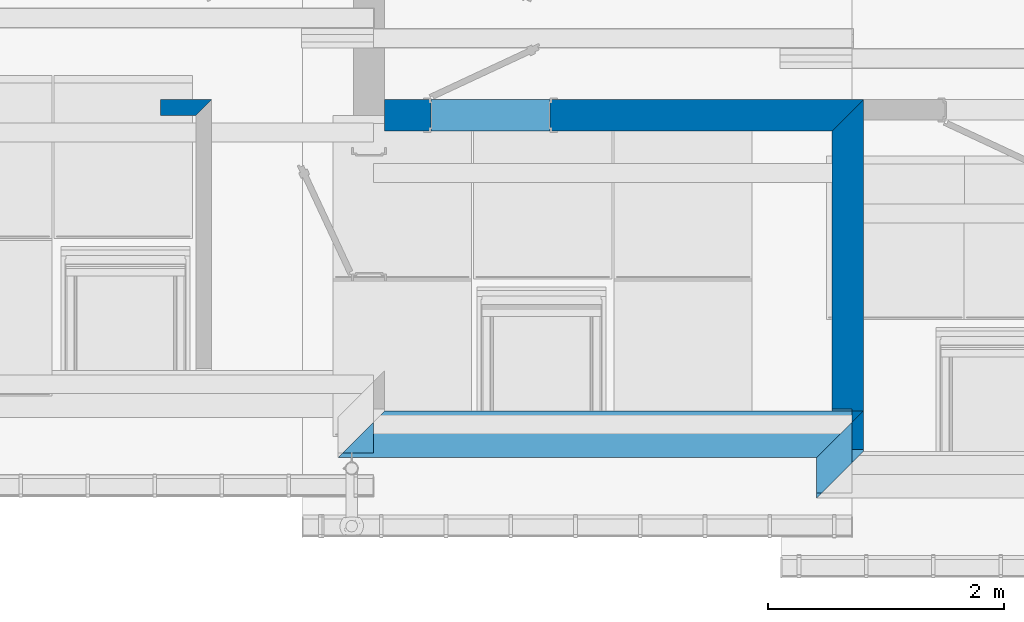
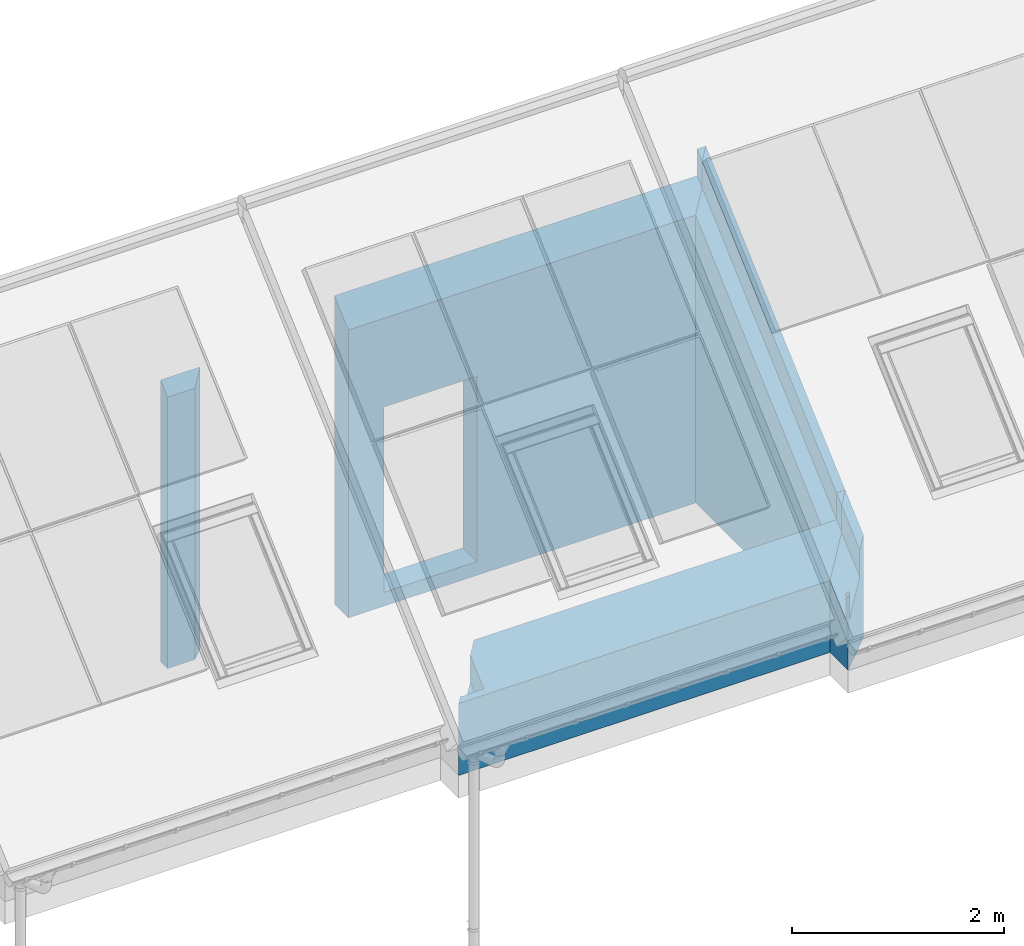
# One storey, part 9 of 43: 5 walls, 1 opening.
"""IFC2X3 building model written with IfcOpenShell, lengths in millimetres."""

from ifc_helpers import new_model, si_unit, frame, origin_with_axes, place, context, project, spatial, faceted_brep, material, layer, layer_set, layer_usage, element, save


model = new_model("IFC2X3")

# Units and contexts
model_context = context("Model", 3, world=origin_with_axes())
ifc_project = project(units=[si_unit("LENGTHUNIT", "METRE", prefix="MILLI")], contexts=[model_context])

# Site, building, storey
site_placement = place(None, origin_with_axes())
site = spatial("IfcSite", under=ifc_project, at=site_placement, Name="Site", CompositionType="ELEMENT")
building_placement = place(site_placement, origin_with_axes())
building = spatial("IfcBuilding", under=site, at=building_placement, Name="?", CompositionType="ELEMENT")
storey_placement = place(building_placement, frame((0.0, 0.0, 5938.0), z_axis=(0.0, 0.0, 1.0), x_axis=(1.0, 0.0, 0.0)))
storey = spatial("IfcBuildingStorey", under=building, at=storey_placement, Name="Dachgeschoß", CompositionType="ELEMENT", Elevation=5938.0)

# Walls
ifc_material_1 = material(Name="Material_AW")
ifc_layer_1 = layer(ifc_material_1, 395.0, ventilated=False)
ifc_layer_set_1 = layer_set([ifc_layer_1], Name="MaterialLayerSet_AW")
ifc_layer_usage_1 = layer_usage(ifc_layer_set_1, "AXIS2", "NEGATIVE", 197.5)
wall_1_placement = place(storey_placement, frame((13747.5, -7242.5, 0.0), z_axis=(0.0, 0.0, 1.0), x_axis=(0.0, 1.0, 0.0)))
element("IfcWall", 1, at=wall_1_placement, inside=storey, material=ifc_layer_usage_1, Name="AW-24", context=model_context, shape_type="Brep", body=[
    faceted_brep([(539.500007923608, -197.5, 0.0), (539.500007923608, -197.5, 1493.14802333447), (197.499999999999, -197.5, 1185.20976677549), (197.5, -197.5, 0.0), (144.500007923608, 197.5, 0.0), (144.500007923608, 197.5, 829.550079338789), (444.500007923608, -102.5, 1099.67143284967), (444.500007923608, -102.5, 1407.60968853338), (539.500007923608, -197.5, 1493.14802333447), (539.500007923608, -197.5, 0.0), (-197.5, 197.5, 0.0), (-197.500000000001, 197.5, 829.550314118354), (-155.5, 197.5, 867.367208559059), (-155.5, 197.5, 559.428800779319), (144.500007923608, 197.5, 829.550079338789), (144.500007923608, 197.5, 0.0), (197.5, -197.5, -1.26217744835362e-29), (197.499999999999, -197.5, 1185.20976677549), (102.499999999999, -102.5, 1099.67143197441), (102.499999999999, -102.5, 791.733176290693), (-155.5, 155.499999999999, 559.42881227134), (-155.5, 155.499999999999, 867.367208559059), (-197.500000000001, 197.5, 829.550314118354), (-197.5, 197.5, 3.78653234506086e-29), (197.5, -197.5, 0.0), (-197.5, 197.5, 0.0), (144.500007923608, 197.5, 0.0), (539.500007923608, -197.5, 0.0), (-155.5, 197.5, 867.367208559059), (-197.500000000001, 197.5, 829.550314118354), (-155.5, 155.499999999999, 867.367208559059), (102.499999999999, -102.5, 1099.67143197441), (197.499999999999, -197.5, 1185.20976677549), (539.500007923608, -197.5, 1493.14802333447), (444.500007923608, -102.5, 1407.60968853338), (444.500007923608, -102.5, 1099.67143284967), (144.500007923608, 197.5, 829.550079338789), (-155.5, 197.5, 559.428800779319), (-155.5, 155.499999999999, 559.428812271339), (102.499999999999, -102.5, 791.733176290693), (102.499999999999, -102.5, 791.733176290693), (102.499999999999, -102.5, 1099.67143197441), (444.500007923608, -102.5, 1407.60968853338), (444.500007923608, -102.5, 1099.67143284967), (-155.5, 197.5, 559.428800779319), (-155.5, 197.5, 867.367208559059), (-155.5, 155.499999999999, 867.367208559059), (-155.5, 155.499999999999, 559.42881227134)], [[[0, 1, 2, 3]], [[4, 5, 6, 7, 8, 9]], [[10, 11, 12, 13, 14, 15]], [[16, 17, 18, 19, 20, 21, 22, 23]], [[24, 25, 26, 27]], [[28, 29, 30]], [[31, 32, 33, 34]], [[35, 36, 37, 38, 39]], [[40, 41, 42, 43]], [[44, 45, 46, 47]]]),
])
wall_2_placement = place(storey_placement, frame((13747.5, -6900.5, 0.0), z_axis=(0.0, 0.0, 1.0), x_axis=(-1.0, 0.0, 0.0)))
element("IfcWall", 2, at=wall_2_placement, inside=storey, material=ifc_layer_usage_1, Name="AW-25", context=model_context, shape_type="Brep", body=[
    faceted_brep([(3852.50007906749, -197.5, 0.0), (3852.50007906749, -197.5, 1185.20936800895), (-102.5, -197.5, 1185.20941622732), (-102.5, -197.5, 1493.14796522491), (-197.5, -197.5, 1493.14796522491), (-197.5, -197.5, 0.0), (4247.50007906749, 197.5, 0.0), (4247.50007906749, 197.5, 829.549689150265), (4205.50007906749, 155.5, 867.366667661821), (4205.50007906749, 155.5, 559.428707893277), (3947.5, -102.50007906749, 791.732993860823), (3947.5, -102.50007906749, 1099.67103542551), (3852.50007906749, -197.5, 1185.20936800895), (3852.50007906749, -197.5, 4.03896783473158e-28), (197.5, 197.5, 0.0), (197.5, 197.5, 829.54973852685), (4247.50007906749, 197.5, 829.549689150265), (4247.50007906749, 197.5, 0.0), (-197.5, -197.5, 1.57772181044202e-30), (-197.5, -197.5, 1493.14796522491), (-102.5, -102.5, 1407.60939570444), (-102.5, -102.5, 1099.67101360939), (197.5, 197.5, 829.54973852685), (197.5, 197.5, 1.57772181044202e-30), (-197.5, -197.5, 0.0), (197.5, 197.5, 0.0), (4247.50007906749, 197.5, 0.0), (3852.50007906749, -197.5, 0.0), (-102.5, -102.5, 1407.60939570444), (-197.5, -197.5, 1493.14796522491), (-102.5, -197.5, 1493.14796522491), (4205.50007906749, 155.5, 867.366667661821), (4247.50007906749, 197.5, 829.549689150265), (197.5, 197.5, 829.54973852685), (-102.500000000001, -102.5, 1099.67101360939), (-102.500000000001, -197.5, 1185.20941622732), (3852.50007906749, -197.5, 1185.20936800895), (3947.5, -102.50007906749, 1099.67103542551), (3947.5, 155.5, 867.366670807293), (3947.5, -102.50007906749, 791.732993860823), (4205.50007906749, 155.5, 559.428707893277), (3947.5, 155.5, 559.428707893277), (-102.5, -102.5, 1099.67101360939), (-102.5, -102.5, 1407.60939570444), (-102.5, -197.5, 1493.14796522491), (-102.5, -197.5, 1185.20941622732), (3947.5, 155.5, 559.428707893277), (3947.5, 155.5, 867.366670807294), (3947.5, -102.50007906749, 1099.67103542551), (3947.5, -102.50007906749, 791.732993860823), (4205.50007906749, 155.5, 559.428707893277), (4205.50007906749, 155.5, 867.366667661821), (3947.5, 155.5, 867.366670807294), (3947.5, 155.5, 559.428707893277)], [[[0, 1, 2, 3, 4, 5]], [[6, 7, 8, 9, 10, 11, 12, 13]], [[14, 15, 16, 17]], [[18, 19, 20, 21, 22, 23]], [[24, 25, 26, 27]], [[28, 29, 30]], [[31, 32, 33, 34, 35, 36, 37, 38]], [[39, 40, 41]], [[42, 43, 44, 45]], [[46, 47, 48, 49]], [[50, 51, 52, 53]]]),
])
ifc_material_2 = material(Name="Material_IW")
ifc_layer_2 = layer(ifc_material_2, 264.0, ventilated=False)
ifc_layer_set_2 = layer_set([ifc_layer_2], Name="MaterialLayerSet_IW")
ifc_layer_usage_2 = layer_usage(ifc_layer_set_2, "AXIS2", "NEGATIVE", 132.0)
wall_3_placement = place(storey_placement, frame((13813.0, -6703.0, 0.0), z_axis=(0.0, 0.0, 1.0), x_axis=(0.0, 1.0, 0.0)))
element("IfcWall", 3, at=wall_3_placement, inside=storey, material=ifc_layer_usage_2, Name="IW-38", context=model_context, shape_type="Brep", body=[
    faceted_brep([(2634.00010334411, -132.0, 0.0), (2634.00028412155, -132.0, 3864.81283801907), (0.0, -132.0, 1493.14822056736), (0.0, -132.0, 0.0), (2369.99990306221, 132.0, -6.7762635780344e-21), (2370.00005831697, 132.0, 3319.16739306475), (2539.00019364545, -37.0000000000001, 3471.3361271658), (2539.00020804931, -36.9999999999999, 3779.27404148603), (2634.00028412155, -132.0, 3864.81283801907), (2634.00010334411, -132.0, 0.0), (0.0, 132.0, 0.0), (0.0, 132.0, 1185.20965754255), (2370.00005831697, 132.0, 3319.16739306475), (2369.99990306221, 132.0, 0.0), (0.0, -132.0, 0.0), (0.0, -132.0, 1493.14822056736), (0.0, -37.0, 1493.14788066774), (0.0, -37.0, 1185.2099793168), (0.0, 132.0, 1185.20965754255), (0.0, 132.0, 0.0), (0.0, -132.0, 0.0), (0.0, 132.0, 0.0), (2369.99990306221, 132.0, 0.0), (2634.00010334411, -132.0, 0.0), (8.44857960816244e-14, -37.0, 1493.14788066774), (1.88143825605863e-13, -132.0, 1493.14822056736), (2634.00028412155, -132.0, 3864.81283801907), (2539.00020804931, -37.0, 3779.27404148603), (2539.00019364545, -37.0, 3471.3361271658), (2370.00005831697, 132.0, 3319.16739306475), (9.09494701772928e-13, 132.0, 1185.20965754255), (9.09494701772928e-13, -37.0, 1185.2099793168), (0.0, -37.0, 1185.2099793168), (0.0, -37.0, 1493.14788066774), (2539.00020804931, -37.0, 3779.27404148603), (2539.00019364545, -37.0, 3471.3361271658)], [[[0, 1, 2, 3]], [[4, 5, 6, 7, 8, 9]], [[10, 11, 12, 13]], [[14, 15, 16, 17, 18, 19]], [[20, 21, 22, 23]], [[24, 25, 26, 27]], [[28, 29, 30, 31]], [[32, 33, 34, 35]]]),
])

# Wall, opening
wall_4_placement = place(storey_placement, frame((9895.0, -4201.0, 0.0), z_axis=(0.0, 0.0, 1.0), x_axis=(1.0, 0.0, 0.0)))
wall_4 = element("IfcWall", 4, at=wall_4_placement, inside=storey, material=ifc_layer_usage_2, Name="IW-40", context=model_context, shape_type="Brep", body=[
    faceted_brep([(3786.00041944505, -132.0, 0.0), (3786.00033727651, -132.0, 3319.16700890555), (0.0, -132.0, 3319.16680067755), (0.0, -132.0, 6.08430957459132e-32), (4049.99995212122, 132.0, 0.0), (4049.9998564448, 132.0, 3864.81243665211), (3955.0, 36.999973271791, 3779.27334921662), (3955.0, 36.9999656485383, 3471.33549737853), (3786.00033727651, -132.000000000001, 3319.16700890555), (3786.00041944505, -132.000000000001, 0.0), (0.0, 132.0, 0.0), (0.0, 132.0, 3556.87382238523), (3955.0, 132.0, 3556.87403990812), (3955.0, 132.0, 3864.8124366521), (4049.9998564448, 132.0, 3864.8124366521), (4049.99995212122, 132.0, 0.0), (0.0, -132.0, 0.0), (0.0, -132.0, 3319.16680067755), (0.0, 132.0, 3556.87382238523), (0.0, 132.0, 0.0), (0.0, -132.0, 0.0), (0.0, 132.0, 0.0), (4049.99995212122, 132.0, 0.0), (3786.00041944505, -132.0, 0.0), (3955.0, 36.9999732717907, 3779.27334921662), (4049.9998564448, 132.0, 3864.8124366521), (3955.0, 132.0, 3864.8124366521), (3955.0, 132.0, 3556.87403990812), (-4.54747350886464e-13, 132.0, 3556.87382238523), (-4.54747350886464e-13, -132.0, 3319.16680067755), (3786.00033727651, -132.0, 3319.16700890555), (3955.0, 36.9999656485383, 3471.33549737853), (3955.0, 36.9999656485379, 3471.33549737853), (3955.0, 36.9999732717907, 3779.27334921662), (3955.0, 132.0, 3864.8124366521), (3955.0, 132.0, 3556.87403990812)], [[[0, 1, 2, 3]], [[4, 5, 6, 7, 8, 9]], [[10, 11, 12, 13, 14, 15]], [[16, 17, 18, 19]], [[20, 21, 22, 23]], [[24, 25, 26]], [[27, 28, 29, 30, 31]], [[32, 33, 34, 35]]]),
])
opening_placement = place(wall_4_placement, frame((390.0, 0.0, 160.0), z_axis=(0.0, 0.0, 1.0), x_axis=(1.0, 0.0, 0.0)))
element("IfcOpeningElement", 5, at=opening_placement, cuts=wall_4, Name="IW-40|IT17", context=model_context, shape_type="Brep", body=[
    faceted_brep([(0.0, 142.0, 0.0), (0.0, 142.0, 2135.0), (1010.0, 142.0, 2135.0), (1010.0, 142.0, 0.0), (0.0, -142.0, 0.0), (0.0, -142.0, 2135.0), (0.0, 142.0, 2135.0), (0.0, 142.0, 0.0), (1010.0, -142.0, 0.0), (0.0, -142.0, 0.0), (0.0, 142.0, 0.0), (1010.0, 142.0, 0.0), (1010.0, -142.0, 2135.0), (1010.0, -142.0, 0.0), (1010.0, 142.0, 0.0), (1010.0, 142.0, 2135.0), (0.0, -142.0, 2135.0), (1010.0, -142.0, 2135.0), (1010.0, 142.0, 2135.0), (0.0, 142.0, 2135.0), (0.0, -142.0, 0.0), (1010.0, -142.0, 0.0), (1010.0, -142.0, 2135.0), (0.0, -142.0, 2135.0)], [[[0, 1, 2, 3]], [[4, 5, 6, 7]], [[8, 9, 10, 11]], [[12, 13, 14, 15]], [[16, 17, 18, 19]], [[20, 21, 22, 23]]]),
])

# Wall
ifc_layer_3 = layer(ifc_material_2, 132.0, ventilated=False)
ifc_layer_set_3 = layer_set([ifc_layer_3], Name="MaterialLayerSet_IW")
ifc_layer_usage_3 = layer_usage(ifc_layer_set_3, "AXIS2", "NEGATIVE", 66.0)
wall_5_placement = place(storey_placement, frame((8365.0, -4135.0, 0.0), z_axis=(0.0, 0.0, 1.0), x_axis=(-1.0, 0.0, 0.0)))
element("IfcWall", 6, at=wall_5_placement, inside=storey, material=ifc_layer_usage_3, Name="IW-51", context=model_context, shape_type="Brep", body=[
    faceted_brep([(366.0, -66.0, 0.0), (366.0, -66.0, 3248.93554187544), (-66.0, -66.0, 3248.93554187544), (-66.0, -66.0, 0.0), (366.0, 66.0, 0.0), (366.0, 66.0, 3130.0820310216), (366.0, -66.0, 3248.93554187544), (366.0, -66.0, 0.0), (66.0, 66.0, 0.0), (66.0, 66.0, 3130.0820310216), (366.0, 66.0, 3130.0820310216), (366.0, 66.0, 0.0), (-66.0, -66.0, 0.0), (-66.0, -66.0, 3248.93554187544), (66.0, 66.0, 3130.0820310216), (66.0, 66.0, 0.0), (-66.0, -66.0, 0.0), (66.0, 66.0, 0.0), (366.0, 66.0, 0.0), (366.0, -66.0, 0.0), (-66.0, -66.0000000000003, 3248.93554187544), (366.0, -66.0000000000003, 3248.93554187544), (366.0, 65.9999999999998, 3130.0820310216), (66.0, 65.9999999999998, 3130.0820310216)], [[[0, 1, 2, 3]], [[4, 5, 6, 7]], [[8, 9, 10, 11]], [[12, 13, 14, 15]], [[16, 17, 18, 19]], [[20, 21, 22, 23]]]),
])

save(model, "model.ifc")
